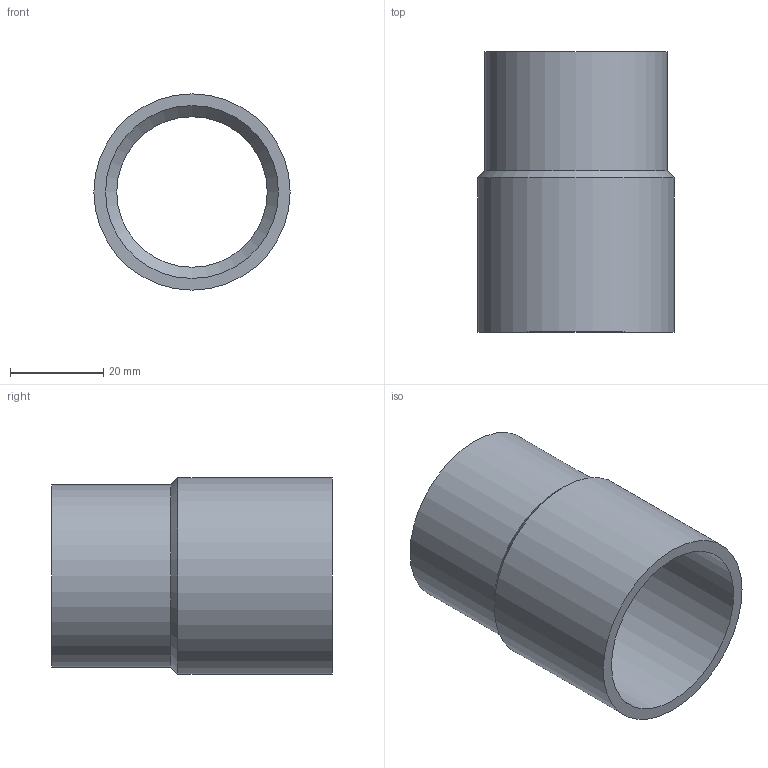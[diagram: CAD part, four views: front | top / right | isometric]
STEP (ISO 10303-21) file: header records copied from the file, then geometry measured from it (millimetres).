
FILE_DESCRIPTION(/* description */ (''),/* implementation_level */ '2;1');
FILE_NAME(/* name */ 'P:\Adapter\Schweißstutzen und Schweißadapter\A 42a_35i.stp',/* time_stamp */ '2019-04-01T13:04:06+02:00',/* author */ ('neufeld'),/* organization */ (''),/* preprocessor_version */ 'ST-DEVELOPER v17',/* originating_system */ 'Autodesk Inventor 2019',/* authorisation */ '');
FILE_SCHEMA (('AUTOMOTIVE_DESIGN { 1 0 10303 214 3 1 1 }'));
Length unit declared in the file: millimetre
Products named in the file (1): A 42a_35i
Bounding box: 42 x 60 x 42 mm (x, y, z)
Volume: 16735.2 mm3; surface area: 15346.8 mm2
Topology: 1 solids, 1 shells, 10 faces, 27 edges, 20 vertices
Faces by surface type: cylinder 5, plane 3, cone 2
Full cylindrical faces by diameter (mm): 32.2 x1, 35.2 x1, 37 x1, 39 x1, 42 x1
Entity records: 382 total; most frequent: DIRECTION 69, CARTESIAN_POINT 58, ORIENTED_EDGE 54, AXIS2_PLACEMENT_3D 31, EDGE_CURVE 27, CIRCLE 20, VERTEX_POINT 20, EDGE_LOOP 13
